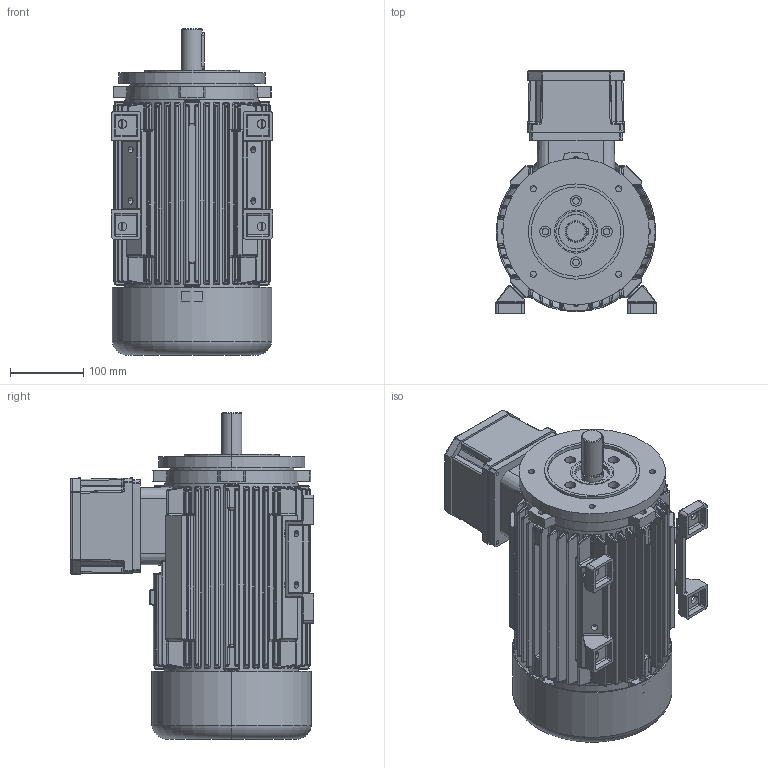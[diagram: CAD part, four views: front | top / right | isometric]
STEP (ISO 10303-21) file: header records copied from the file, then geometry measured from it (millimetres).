
FILE_DESCRIPTION (( 'STEP AP214' ), '1' );
FILE_NAME ('20.18458-F 7AT 112 B34_large Exd STANDK.STEP', '2018-07-17T12:08:47', ( '' ), ( '' ), 'SwSTEP 2.0', 'SolidWorks 2018', '' );
FILE_SCHEMA (( 'AUTOMOTIVE_DESIGN' ));
Length unit declared in the file: millimetre
Products named in the file (1): 20.18458-F 7AT 112 B34_large Exd STANDK
Bounding box: 220 x 332.6 x 446 mm (x, y, z)
Volume: 5264024 mm3; surface area: 1351482.9 mm2
Topology: 12 solids, 12 shells, 3175 faces, 7622 edges, 4331 vertices
Faces by surface type: cylinder 1176, bspline 992, plane 598, sphere 178, torus 117, cone 114
Entity records: 152711 total; most frequent: CARTESIAN_POINT 61169, ORIENTED_EDGE 14668, DIRECTION 12015, EDGE_CURVE 7334, AXIS2_PLACEMENT_3D 4782, VERTEX_POINT 4321, EDGE_LOOP 3409, FACE_OUTER_BOUND 3175
